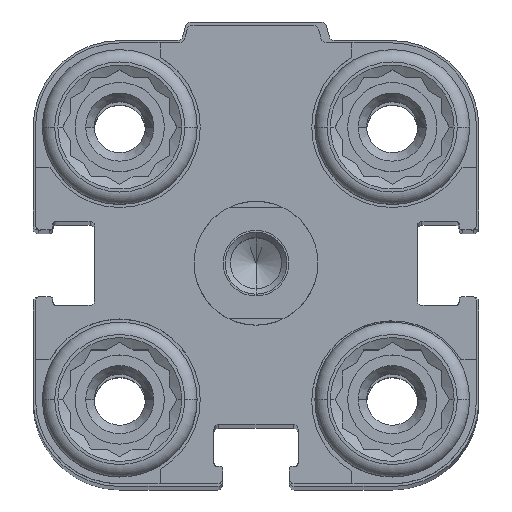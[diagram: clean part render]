
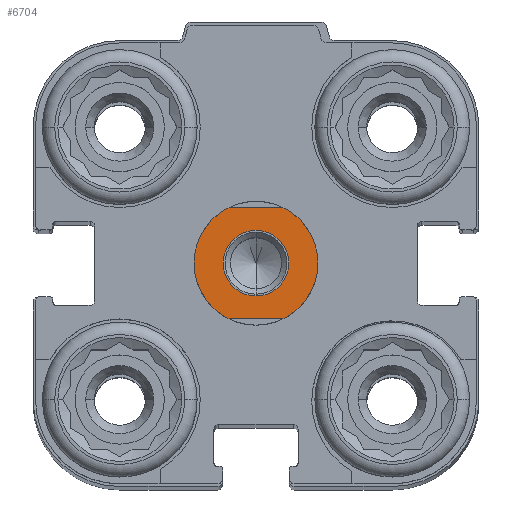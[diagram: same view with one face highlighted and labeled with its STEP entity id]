
A CAD part, top view. The second image highlights one B-rep face of the part: STEP entity #6704.
In plain terms, the highlighted planar face has unit normal (0, 0, 1).
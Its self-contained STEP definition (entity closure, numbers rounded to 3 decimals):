
#203 = VERTEX_POINT ( 'NONE', #17972 ) ;
#306 = EDGE_CURVE ( 'NONE', #13348, #16883, #4638, .T. ) ;
#629 = FACE_BOUND ( 'NONE', #4375, .T. ) ;
#774 = CARTESIAN_POINT ( 'NONE',  ( -9., 4.5, 4.5 ) ) ;
#1506 = DIRECTION ( 'NONE',  ( 0., 0., -1. ) ) ;
#2724 = ORIENTED_EDGE ( 'NONE', *, *, #306, .T. ) ;
#3084 = EDGE_LOOP ( 'NONE', ( #4392, #17135, #7710, #7990, #16384, #7501 ) ) ;
#3095 = CARTESIAN_POINT ( 'NONE',  ( -2.179, 4.5, 4.5 ) ) ;
#3464 = EDGE_CURVE ( 'NONE', #9410, #203, #10507, .T. ) ;
#3497 = PLANE ( 'NONE',  #6522 ) ;
#3649 = DIRECTION ( 'NONE',  ( -1., 0., 0. ) ) ;
#4375 = EDGE_LOOP ( 'NONE', ( #7890, #2724 ) ) ;
#4391 = CIRCLE ( 'NONE', #15046, 2.65 ) ;
#4392 = ORIENTED_EDGE ( 'NONE', *, *, #16390, .F. ) ;
#4638 = CIRCLE ( 'NONE', #8594, 2.65 ) ;
#4929 = FACE_OUTER_BOUND ( 'NONE', #3084, .T. ) ;
#5124 = DIRECTION ( 'NONE',  ( 0., 1., 0. ) ) ;
#5752 = DIRECTION ( 'NONE',  ( -1., 0., 0. ) ) ;
#5931 = CIRCLE ( 'NONE', #18714, 5. ) ;
#6302 = VECTOR ( 'NONE', #9081, 1000. ) ;
#6522 = AXIS2_PLACEMENT_3D ( 'NONE', #10648, #7794, #5124 ) ;
#6596 = DIRECTION ( 'NONE',  ( 1., 0., 0. ) ) ;
#6704 = ADVANCED_FACE ( 'NONE', ( #4929, #629 ), #3497, .F. ) ;
#7198 = DIRECTION ( 'NONE',  ( -1., 0., 0. ) ) ;
#7375 = VERTEX_POINT ( 'NONE', #7437 ) ;
#7437 = CARTESIAN_POINT ( 'NONE',  ( 5., 0., 4.5 ) ) ;
#7501 = ORIENTED_EDGE ( 'NONE', *, *, #10360, .F. ) ;
#7517 = DIRECTION ( 'NONE',  ( -1., 0., 0. ) ) ;
#7710 = ORIENTED_EDGE ( 'NONE', *, *, #15373, .F. ) ;
#7739 = DIRECTION ( 'NONE',  ( 0., 0., -1. ) ) ;
#7794 = DIRECTION ( 'NONE',  ( 0., 0., -1. ) ) ;
#7890 = ORIENTED_EDGE ( 'NONE', *, *, #18643, .T. ) ;
#7990 = ORIENTED_EDGE ( 'NONE', *, *, #3464, .F. ) ;
#8372 = CARTESIAN_POINT ( 'NONE',  ( 0., 2.65, 4.5 ) ) ;
#8421 = CARTESIAN_POINT ( 'NONE',  ( 0., -2.65, 4.5 ) ) ;
#8443 = VERTEX_POINT ( 'NONE', #15756 ) ;
#8594 = AXIS2_PLACEMENT_3D ( 'NONE', #12905, #12542, #11485 ) ;
#9081 = DIRECTION ( 'NONE',  ( -1., 0., 0. ) ) ;
#9276 = DIRECTION ( 'NONE',  ( 0., 1., 0. ) ) ;
#9410 = VERTEX_POINT ( 'NONE', #16060 ) ;
#9664 = DIRECTION ( 'NONE',  ( 0., 0., -1. ) ) ;
#10082 = VERTEX_POINT ( 'NONE', #16652 ) ;
#10360 = EDGE_CURVE ( 'NONE', #8443, #7375, #13020, .T. ) ;
#10507 = LINE ( 'NONE', #16312, #6302 ) ;
#10536 = CARTESIAN_POINT ( 'NONE',  ( 0., 0., 4.5 ) ) ;
#10602 = AXIS2_PLACEMENT_3D ( 'NONE', #10536, #16052, #7198 ) ;
#10648 = CARTESIAN_POINT ( 'NONE',  ( 0., 0., 4.5 ) ) ;
#11485 = DIRECTION ( 'NONE',  ( 0., 1., 0. ) ) ;
#12542 = DIRECTION ( 'NONE',  ( 0., 0., -1. ) ) ;
#12905 = CARTESIAN_POINT ( 'NONE',  ( 0., 0., 4.5 ) ) ;
#13020 = CIRCLE ( 'NONE', #10602, 5. ) ;
#13324 = CARTESIAN_POINT ( 'NONE',  ( 0., 0., 4.5 ) ) ;
#13348 = VERTEX_POINT ( 'NONE', #8421 ) ;
#13825 = LINE ( 'NONE', #774, #15090 ) ;
#13839 = CIRCLE ( 'NONE', #16260, 5. ) ;
#14677 = EDGE_CURVE ( 'NONE', #10082, #15799, #13839, .T. ) ;
#15046 = AXIS2_PLACEMENT_3D ( 'NONE', #16314, #7739, #9276 ) ;
#15090 = VECTOR ( 'NONE', #6596, 1000. ) ;
#15373 = EDGE_CURVE ( 'NONE', #203, #10082, #5931, .T. ) ;
#15697 = CIRCLE ( 'NONE', #16614, 5. ) ;
#15756 = CARTESIAN_POINT ( 'NONE',  ( 2.179, 4.5, 4.5 ) ) ;
#15799 = VERTEX_POINT ( 'NONE', #3095 ) ;
#15943 = CARTESIAN_POINT ( 'NONE',  ( 0., 0., 4.5 ) ) ;
#16052 = DIRECTION ( 'NONE',  ( 0., 0., -1. ) ) ;
#16060 = CARTESIAN_POINT ( 'NONE',  ( 2.179, -4.5, 4.5 ) ) ;
#16252 = EDGE_CURVE ( 'NONE', #7375, #9410, #15697, .T. ) ;
#16260 = AXIS2_PLACEMENT_3D ( 'NONE', #16893, #9664, #3649 ) ;
#16312 = CARTESIAN_POINT ( 'NONE',  ( 9., -4.5, 4.5 ) ) ;
#16314 = CARTESIAN_POINT ( 'NONE',  ( 0., 0., 4.5 ) ) ;
#16384 = ORIENTED_EDGE ( 'NONE', *, *, #16252, .F. ) ;
#16390 = EDGE_CURVE ( 'NONE', #15799, #8443, #13825, .T. ) ;
#16614 = AXIS2_PLACEMENT_3D ( 'NONE', #15943, #18812, #5752 ) ;
#16652 = CARTESIAN_POINT ( 'NONE',  ( -5., 0., 4.5 ) ) ;
#16883 = VERTEX_POINT ( 'NONE', #8372 ) ;
#16893 = CARTESIAN_POINT ( 'NONE',  ( 0., 0., 4.5 ) ) ;
#17135 = ORIENTED_EDGE ( 'NONE', *, *, #14677, .F. ) ;
#17972 = CARTESIAN_POINT ( 'NONE',  ( -2.179, -4.5, 4.5 ) ) ;
#18643 = EDGE_CURVE ( 'NONE', #16883, #13348, #4391, .T. ) ;
#18714 = AXIS2_PLACEMENT_3D ( 'NONE', #13324, #1506, #7517 ) ;
#18812 = DIRECTION ( 'NONE',  ( 0., 0., -1. ) ) ;
